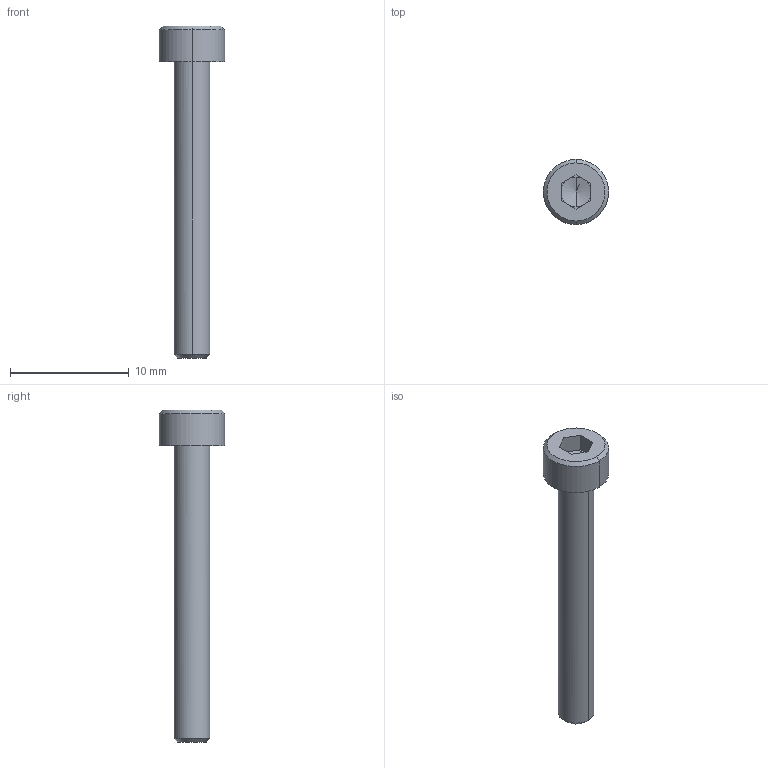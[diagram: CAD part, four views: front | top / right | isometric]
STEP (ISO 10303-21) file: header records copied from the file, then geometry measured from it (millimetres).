
FILE_DESCRIPTION(/* description */ (''),/* implementation_level */ '2;1');
FILE_NAME(/* name */ '11.air-assist#11.1#CB3-25',/* time_stamp */ '2014-12-01T20:19:36+01:00',/* author */ (''),/* organization */ (''),/* preprocessor_version */ 'ST-DEVELOPER v14',/* originating_system */ '',/* authorisation */ '');
FILE_SCHEMA (('AUTOMOTIVE_DESIGN'));
Length unit declared in the file: millimetre
Products named in the file (2): Document; screw DIN912-like, M3x25
Assembly tree (1 placements, depth 2):
  Document
    screw DIN912-like, M3x25
Bounding box: 5.49 x 5.5 x 28 mm (x, y, z)
Volume: 238.9 mm3; surface area: 343.4 mm2
Topology: 1 solids, 1 shells, 25 faces, 56 edges, 33 vertices
Faces by surface type: plane 15, bspline 10
Entity records: 1405 total; most frequent: CARTESIAN_POINT 632, B_SPLINE_CURVE_WITH_KNOTS 126, ORIENTED_EDGE 108, PCURVE 108, DEFINITIONAL_REPRESENTATION 108, SURFACE_CURVE 54, EDGE_CURVE 54, VERTEX_POINT 33
